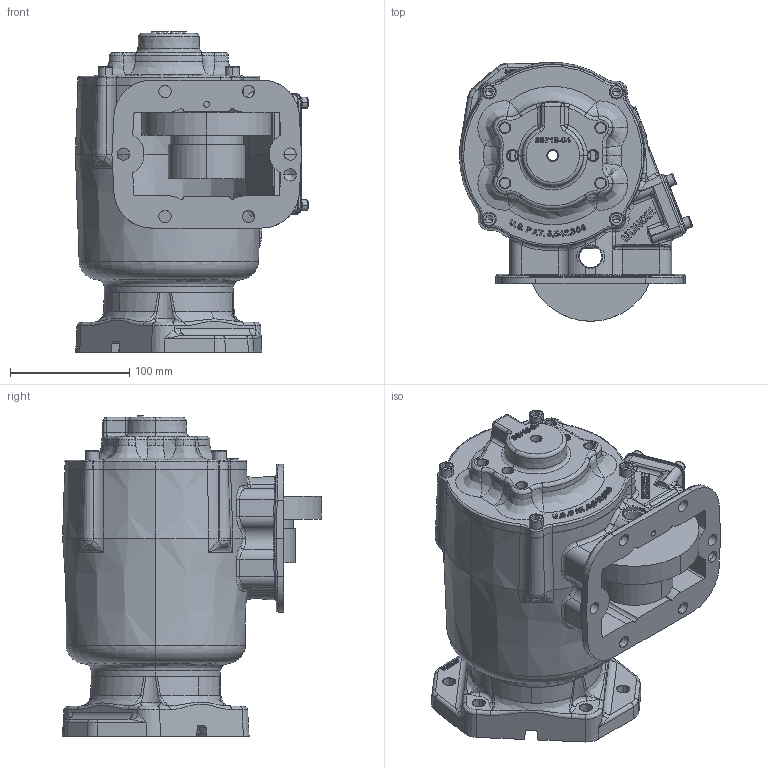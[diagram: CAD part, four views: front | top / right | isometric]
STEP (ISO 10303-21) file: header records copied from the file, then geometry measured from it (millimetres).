
FILE_DESCRIPTION (( 'STEP AP203' ), '1' );
FILE_NAME ('CS6S-XXXXX-E1KX.STEP', '2012-08-10T19:01:55', ( '' ), ( '' ), 'SwSTEP 2.0', 'SolidWorks 2012', '' );
FILE_SCHEMA (( 'CONFIG_CONTROL_DESIGN' ));
Products named in the file (3): CS6S-XXXXX-E1KX; 14T37779a; CS6S-XXXXX-X1XX
Assembly tree (2 placements, depth 2):
  CS6S-XXXXX-E1KX
    CS6S-XXXXX-X1XX
    14T37779a
Bounding box: 195.33 x 216.94 x 268.87 mm (x, y, z)
Volume: 1685594.7 mm3; surface area: 431950.8 mm2
Topology: 13 solids, 13 shells, 2428 faces, 6264 edges, 3928 vertices
Faces by surface type: bspline 1050, plane 554, cylinder 449, cone 322, torus 39, sphere 14
Entity records: 148513 total; most frequent: CARTESIAN_POINT 96923, ORIENTED_EDGE 12402, DIRECTION 7556, EDGE_CURVE 6201, VERTEX_POINT 3928, EDGE_LOOP 2683, AXIS2_PLACEMENT_3D 2572, B_SPLINE_CURVE_WITH_KNOTS 2499
